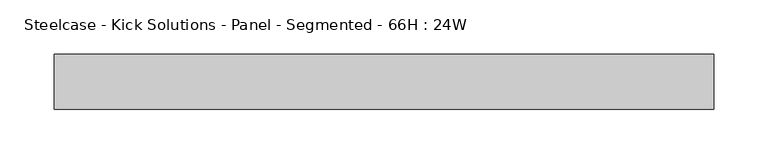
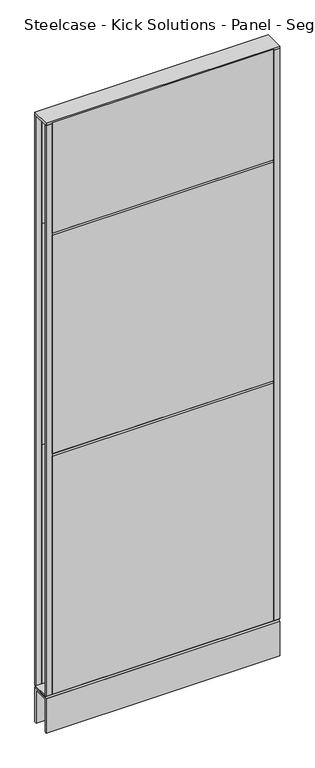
"""IFC4 building model written with IfcOpenShell, lengths in millimetres: furniture geometry, Steelcase - Kick Solutions - Panel - Segmented - 66H : 24W."""

from ifc_helpers import new_model, si_unit, frame, origin, place, context, project, spatial, polyline, outline, extrude, source, transform, mapped, element, save


def steelcase_kick_solutions_panel_segmented_66h_24w_8f118649(model_context):
    return source(origin(), model_context, "Body", "SweptSolid", [
        extrude(outline(polyline([(1.5e-06, 765.0811552), (-3.175, 762.0), (-3.175, 1371.6), (1.5e-06, 1368.5188448), (1.5e-06, 765.0811552)])), frame((15.8749996, 0.0, 0.0), z_axis=(1.0, 0.0, 0.0), x_axis=(0.0, 1.0, 0.0)), (0.0, 0.0, 1.0), 577.8500008),
        extrude(outline(polyline([(1.5e-06, 1374.6811552), (-3.175, 1371.6), (-3.175, 1676.4), (1.5e-06, 1673.3188448), (1.5e-06, 1374.6811552)])), frame((15.8749996, 0.0, 0.0), z_axis=(1.0, 0.0, 0.0), x_axis=(0.0, 1.0, 0.0)), (0.0, 0.0, 1.0), 577.8500008),
        extrude(outline(polyline([(1.5e-06, 101.600003), (-3.175, 101.600003), (-3.175, 762.0), (1.5e-06, 758.9188448), (1.5e-06, 101.600003)])), frame((15.8749996, 0.0, 0.0), z_axis=(1.0, 0.0, 0.0), x_axis=(0.0, 1.0, 0.0)), (0.0, 0.0, 1.0), 577.8500008),
        extrude(outline(polyline([(-50.8000015, 1374.6811552), (-50.8000015, 1679.448), (-47.625, 1676.4), (-47.625, 1371.6), (-50.8000015, 1374.6811552)])), frame((15.8749996, 0.0, 0.0), z_axis=(1.0, 0.0, 0.0), x_axis=(0.0, 1.0, 0.0)), (0.0, 0.0, 1.0), 577.8500008),
        extrude(outline(polyline([(-50.8000015, 765.0811552), (-50.8000015, 1368.5188448), (-47.625, 1371.6), (-47.625, 762.0), (-50.8000015, 765.0811552)])), frame((15.8749996, 0.0, 0.0), z_axis=(1.0, 0.0, 0.0), x_axis=(0.0, 1.0, 0.0)), (0.0, 0.0, 1.0), 577.8500008),
        extrude(outline(polyline([(-50.8000015, 101.600003), (-50.8000015, 758.9188448), (-47.625, 762.0), (-47.625, 101.600003), (-50.8000015, 101.600003)])), frame((15.8749996, 0.0, 0.0), z_axis=(1.0, 0.0, 0.0), x_axis=(0.0, 1.0, 0.0)), (0.0, 0.0, 1.0), 577.8500008),
        extrude(outline(polyline([(609.6, -3.1750015), (593.7250004, -3.1750015), (593.7250004, 0.0), (609.6, 0.0), (609.6, -3.1750015)])), frame((0.0, 0.0, 101.7169049), z_axis=(0.0, 0.0, 1.0), x_axis=(1.0, 0.0, 0.0)), (0.0, 0.0, 1.0), 1574.799997),
        extrude(outline(polyline([(15.8749996, -50.8000015), (0.0, -50.8000015), (0.0, -47.625), (15.8749996, -47.625), (15.8749996, -50.8000015)])), frame((0.0, 0.0, 101.7169049), z_axis=(0.0, 0.0, 1.0), x_axis=(1.0, 0.0, 0.0)), (0.0, 0.0, 1.0), 1574.799997),
        extrude(outline(polyline([(-50.7995075, 101.7169049), (-0.000494, 101.7169049), (-3.0583512, 98.5421458), (-47.7416503, 98.5421458), (-50.7995075, 101.7169049)])), frame((0.0, 0.0, 0.0), z_axis=(1.0, 0.0, 0.0), x_axis=(0.0, 1.0, 0.0)), (0.0, 0.0, 1.0), 609.6),
        extrude(outline(polyline([(609.6, 0.0), (609.6, -50.8000015), (0.0, -50.8000015), (0.0, 0.0), (609.6, 0.0)])), frame((0.0, 0.0, 1676.5169018), z_axis=(0.0, 0.0, 1.0), x_axis=(1.0, 0.0, 0.0)), (0.0, 0.0, 1.0), 6.35),
        extrude(outline(polyline([(15.8749996, -3.1750015), (0.0, -3.1750015), (0.0, 0.0), (15.8749996, 0.0), (15.8749996, -3.1750015)])), frame((0.0, 0.0, 101.7169049), z_axis=(0.0, 0.0, 1.0), x_axis=(1.0, 0.0, 0.0)), (0.0, 0.0, 1.0), 1574.799997),
        extrude(outline(polyline([(609.6, -50.8000015), (593.7250004, -50.8000015), (593.7250004, -47.625), (609.6, -47.625), (609.6, -50.8000015)])), frame((0.0, 0.0, 101.7169049), z_axis=(0.0, 0.0, 1.0), x_axis=(1.0, 0.0, 0.0)), (0.0, 0.0, 1.0), 1574.799997),
        extrude(outline(polyline([(-50.8000015, 95.3668927), (-47.6247484, 98.5421458), (-3.1752531, 98.5421458), (0.0, 95.3668927), (-50.8000015, 95.3668927)])), frame((0.0, 0.0, 0.0), z_axis=(1.0, 0.0, 0.0), x_axis=(0.0, 1.0, 0.0)), (0.0, 0.0, 1.0), 609.6),
        extrude(outline(polyline([(0.0, 0.0), (-5.08, 0.0), (-5.08, 90.2869018), (-45.7200015, 90.2869018), (-45.7200015, 0.0), (-50.8000015, 0.0), (-50.8000015, 95.3669018), (0.0, 95.3669018), (0.0, 0.0)])), frame((0.0, 0.0, 0.0), z_axis=(1.0, 0.0, 0.0), x_axis=(0.0, 1.0, 0.0)), (0.0, 0.0, 1.0), 609.6),
    ])


if __name__ == "__main__":
    model = new_model("IFC4")
    model_context = context("Model", 3, world=origin())
    ifc_project = project(units=[si_unit("LENGTHUNIT", "METRE", prefix="MILLI")], contexts=[model_context])
    site = spatial("IfcSite", under=ifc_project)
    building = spatial("IfcBuilding", under=site)
    placement = place(None, origin())
    steelcase_kick_solutions_panel_segmented_66h_24w_shape = steelcase_kick_solutions_panel_segmented_66h_24w_8f118649(model_context)
    element("IfcFurniture", 1, ObjectType="Steelcase - Kick Solutions - Panel - Segmented - 66H : 24W", at=placement, inside=building, context=model_context, shape_type="MappedRepresentation", body=[
        mapped(steelcase_kick_solutions_panel_segmented_66h_24w_shape, transform((0.0, 0.0, 0.0), x_axis=(1.0, 0.0, 0.0), y_axis=(0.0, 1.0, 0.0), z_axis=(0.0, 0.0, 1.0))),
    ])
    save(model, "model.ifc")
